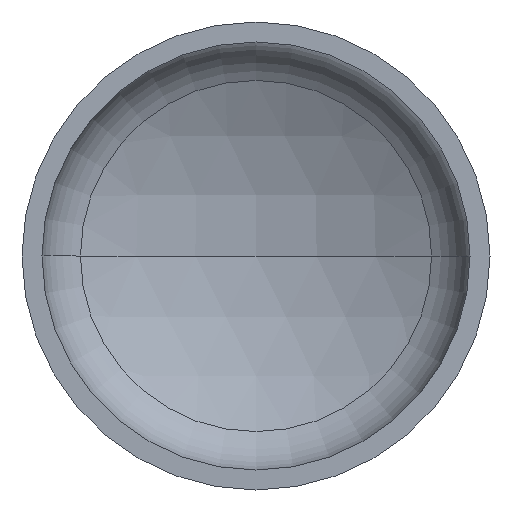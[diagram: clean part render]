
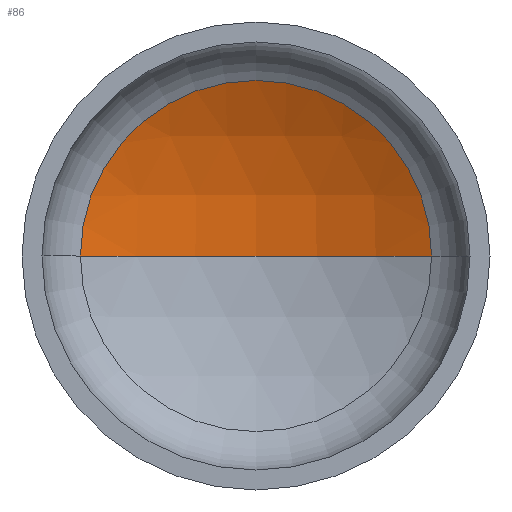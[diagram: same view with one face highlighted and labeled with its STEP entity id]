
A CAD part, front view. The second image highlights one B-rep face of the part: STEP entity #86.
In plain terms, the highlighted spherical face has radius 1760 mm.
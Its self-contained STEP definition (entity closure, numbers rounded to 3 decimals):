
#1 = AXIS2_PLACEMENT_3D ( 'NONE', #321, #148, #350 ) ;
#13 = AXIS2_PLACEMENT_3D ( 'NONE', #284, #340, #21 ) ;
#14 = AXIS2_PLACEMENT_3D ( 'NONE', #81, #242, #127 ) ;
#21 = DIRECTION ( 'NONE',  ( -1., 0., 0. ) ) ;
#41 = AXIS2_PLACEMENT_3D ( 'NONE', #165, #154, #259 ) ;
#50 = CIRCLE ( 'NONE', #13, 1760. ) ;
#75 = EDGE_LOOP ( 'NONE', ( #245, #157, #331 ) ) ;
#81 = CARTESIAN_POINT ( 'NONE',  ( 0., 400.285, 0. ) ) ;
#86 = ADVANCED_FACE ( 'NONE', ( #101 ), #335, .F. ) ;
#101 = FACE_OUTER_BOUND ( 'NONE', #75, .T. ) ;
#127 = DIRECTION ( 'NONE',  ( 1., 0., 0. ) ) ;
#143 = CIRCLE ( 'NONE', #14, 825.465 ) ;
#148 = DIRECTION ( 'NONE',  ( 0., 0., 1. ) ) ;
#154 = DIRECTION ( 'NONE',  ( 0., 0., -1. ) ) ;
#157 = ORIENTED_EDGE ( 'NONE', *, *, #345, .T. ) ;
#165 = CARTESIAN_POINT ( 'NONE',  ( 0., -1154.131, 0. ) ) ;
#175 = CARTESIAN_POINT ( 'NONE',  ( 0., 605.869, 0. ) ) ;
#209 = CARTESIAN_POINT ( 'NONE',  ( 825.465, 400.285, 0. ) ) ;
#242 = DIRECTION ( 'NONE',  ( 0., -1., 0. ) ) ;
#245 = ORIENTED_EDGE ( 'NONE', *, *, #386, .F. ) ;
#254 = CARTESIAN_POINT ( 'NONE',  ( -825.465, 400.285, 0. ) ) ;
#259 = DIRECTION ( 'NONE',  ( -1., 0., 0. ) ) ;
#268 = VERTEX_POINT ( 'NONE', #175 ) ;
#284 = CARTESIAN_POINT ( 'NONE',  ( 0., -1154.131, 0. ) ) ;
#321 = CARTESIAN_POINT ( 'NONE',  ( 0., -1154.131, 0. ) ) ;
#323 = VERTEX_POINT ( 'NONE', #209 ) ;
#331 = ORIENTED_EDGE ( 'NONE', *, *, #333, .T. ) ;
#333 = EDGE_CURVE ( 'NONE', #323, #365, #143, .T. ) ;
#335 = SPHERICAL_SURFACE ( 'NONE', #41, 1760. ) ;
#340 = DIRECTION ( 'NONE',  ( 0., 0., -1. ) ) ;
#345 = EDGE_CURVE ( 'NONE', #268, #323, #50, .T. ) ;
#350 = DIRECTION ( 'NONE',  ( 1., 0., 0. ) ) ;
#365 = VERTEX_POINT ( 'NONE', #254 ) ;
#386 = EDGE_CURVE ( 'NONE', #268, #365, #410, .T. ) ;
#410 = CIRCLE ( 'NONE', #1, 1760. ) ;
